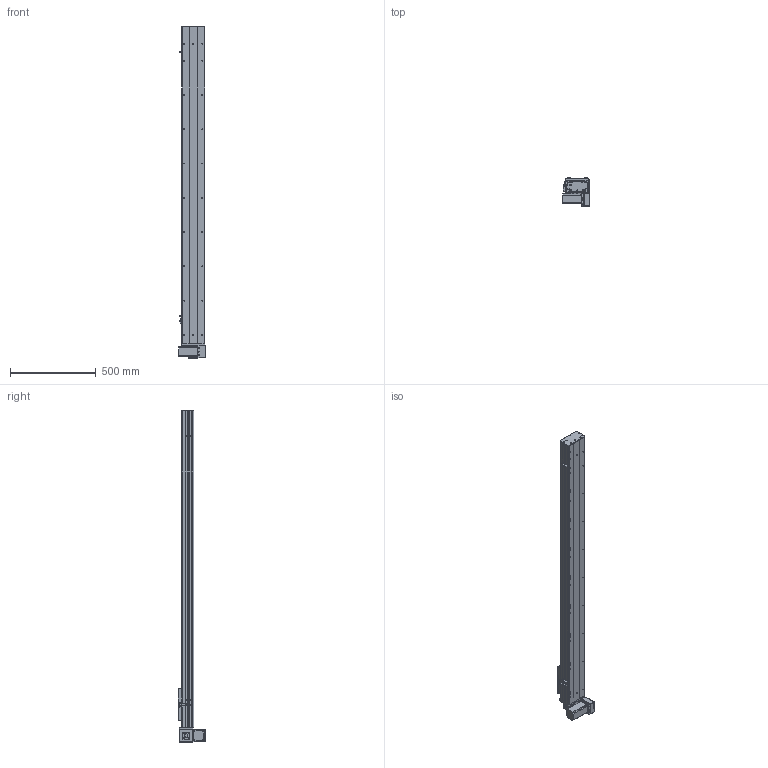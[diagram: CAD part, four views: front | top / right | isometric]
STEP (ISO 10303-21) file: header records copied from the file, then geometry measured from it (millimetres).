
FILE_DESCRIPTION (( 'STEP AP203' ), '1' );
FILE_NAME ('Y135CB-D90-S1550-BM-P400W.STEP', '2020-02-19T01:30:08', ( '微软用户' ), ( '微软中国' ), 'SwSTEP 2.0', 'SolidWorks 2017', '' );
FILE_SCHEMA (( 'CONFIG_CONTROL_DESIGN' ));
Length unit declared in the file: millimetre
Products named in the file (18): C-雄赽釱--; 0B-萇儂楊擘啣; 135CB---遴掛极.-; Y10B--々湍喘謫眊--666; san松下电机400不带刹车----; 35CB---喘謫眊楊擘啣; 00B-俋欶BM--; 5CB --掛极耜裔啣-; 0B-埴倛裔啣; Y10B-耜蚾蟀諉啣----; C-詩湍揤踡え-陔; Y135CB-D90-S1550-BM-P400W; 135CB--詩湍-CE; Y100-135俋离換覜ん--; Y135C-陔俋离換覜結え-; 5C--俋欶; 0B-源倛裔啣; Y135CB-耜裔
Assembly tree (21 placements, depth 2):
  Y135CB-D90-S1550-BM-P400W
    Y135CB-耜裔
    135CB---遴掛极.-
    35CB---喘謫眊楊擘啣
    0B-埴倛裔啣
    0B-源倛裔啣
    0B-萇儂楊擘啣
    san松下电机400不带刹车----
    5CB --掛极耜裔啣-  x2
    C-詩湍揤踡え-陔  x2
    135CB--詩湍-CE
    Y100-135俋离換覜ん--  x3
    Y135C-陔俋离換覜結え-
    5C--俋欶
    C-雄赽釱--
    Y10B--々湍喘謫眊--666
    00B-俋欶BM--
    Y10B-耜蚾蟀諉啣----
Bounding box: 157 x 163.3 x 1938 mm (x, y, z)
Volume: 5814696.9 mm3; surface area: 2289633.1 mm2
Topology: 21 solids, 21 shells, 957 faces, 2581 edges, 1710 vertices
Faces by surface type: cylinder 485, plane 456, cone 16
Entity records: 29955 total; most frequent: DIRECTION 4977, CARTESIAN_POINT 4944, ORIENTED_EDGE 4638, EDGE_CURVE 2319, AXIS2_PLACEMENT_3D 1819, VERTEX_POINT 1538, LINE 1339, VECTOR 1339
